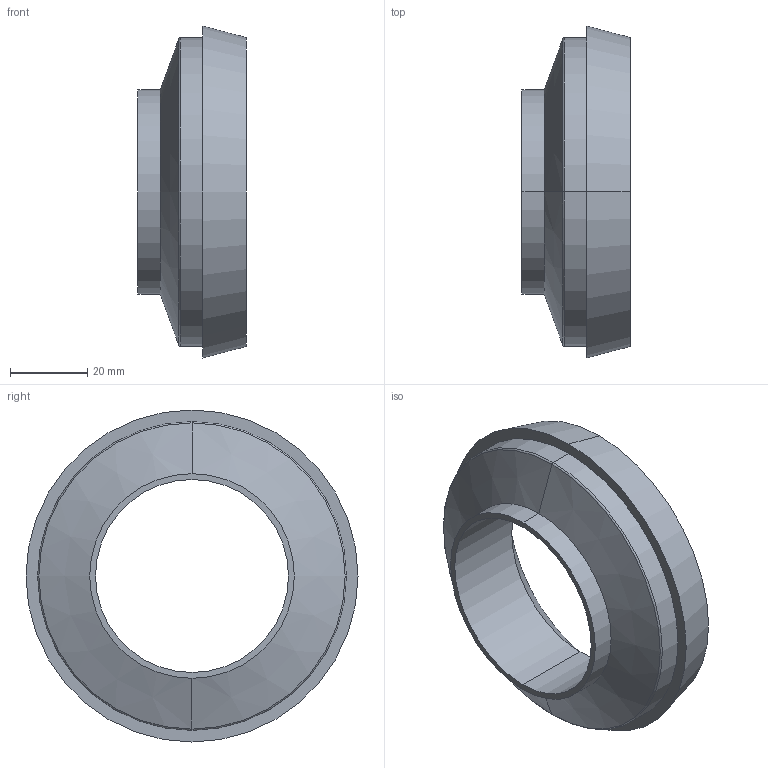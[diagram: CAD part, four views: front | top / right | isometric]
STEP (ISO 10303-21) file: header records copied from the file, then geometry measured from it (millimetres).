
FILE_DESCRIPTION (( 'STEP AP203' ), '1' );
FILE_NAME ('3D-M2024P_65-50_174211155.STEP', '2024-09-06T09:57:47', ( '' ), ( '' ), 'SwSTEP 2.0', 'SolidWorks 2024', '' );
FILE_SCHEMA (( 'CONFIG_CONTROL_DESIGN' ));
Length unit declared in the file: millimetre
Products named in the file (1): 3D-M2024P_65-50_174211155
Bounding box: 28 x 86 x 86 mm (x, y, z)
Volume: 61385.2 mm3; surface area: 16359.3 mm2
Topology: 1 solids, 1 shells, 17 faces, 34 edges, 20 vertices
Faces by surface type: cone 6, cylinder 6, plane 3, torus 2
Entity records: 527 total; most frequent: DIRECTION 92, CARTESIAN_POINT 72, ORIENTED_EDGE 68, AXIS2_PLACEMENT_3D 40, EDGE_CURVE 34, CIRCLE 22, VERTEX_POINT 20, EDGE_LOOP 20
